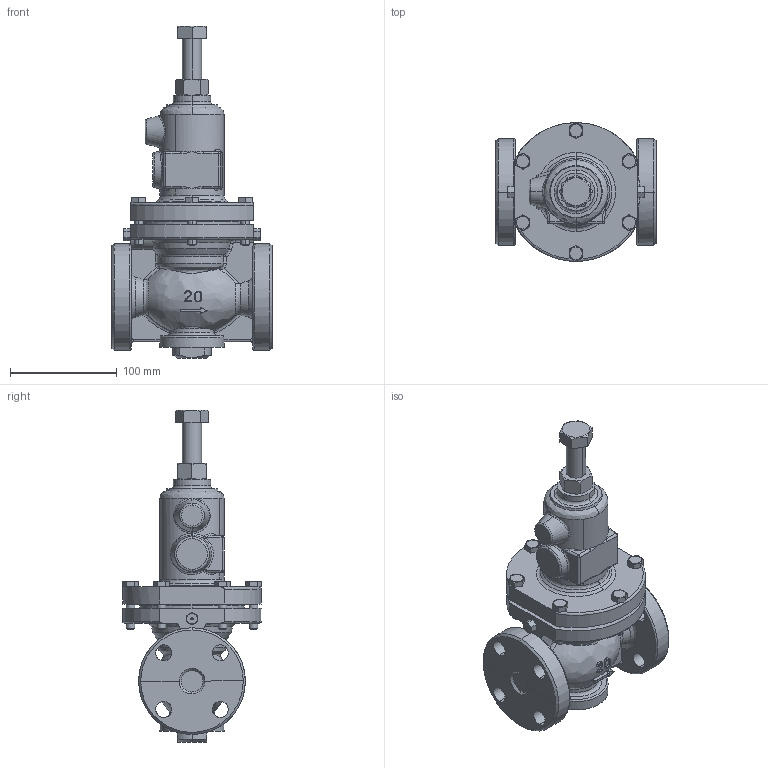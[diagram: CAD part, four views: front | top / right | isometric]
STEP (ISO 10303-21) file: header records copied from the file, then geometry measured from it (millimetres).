
FILE_DESCRIPTION( (''), '2;1');
FILE_NAME ('PC1056.10872.GD-200(20A)_28743.stp','2024-09-11T16:24:46',(''),(''),'spGate 19.8.4 (****-****-****-****)','','');
FILE_SCHEMA (('AUTOMOTIVE_DESIGN'));
Length unit declared in the file: millimetre
Products named in the file (4): Assembly; GD-200(20A)本体P; GD200保護筒15A25A; CP_''_JIS B 1181 六角ナット 2種 上 ''_700
Assembly tree (3 placements, depth 2):
  Assembly
    GD-200(20A)本体P
    GD200保護筒15A25A
    CP_''_JIS B 1181 六角ナット 2種 上 ''_700
Bounding box: 150 x 130.01 x 311.11 mm (x, y, z)
Volume: 1395844.8 mm3; surface area: 175474.5 mm2
Topology: 3 solids, 3 shells, 490 faces, 1257 edges, 789 vertices
Faces by surface type: bspline 201, plane 163, cylinder 119, sphere 7
Entity records: 37467 total; most frequent: CARTESIAN_POINT 17493, ORIENTED_EDGE 2494, COLOUR_RGB 1740, PRESENTATION_STYLE_ASSIGNMENT 1740, STYLED_ITEM 1740, DIRECTION 1669, EDGE_CURVE 1247, DRAUGHTING_PRE_DEFINED_CURVE_FONT 1247
